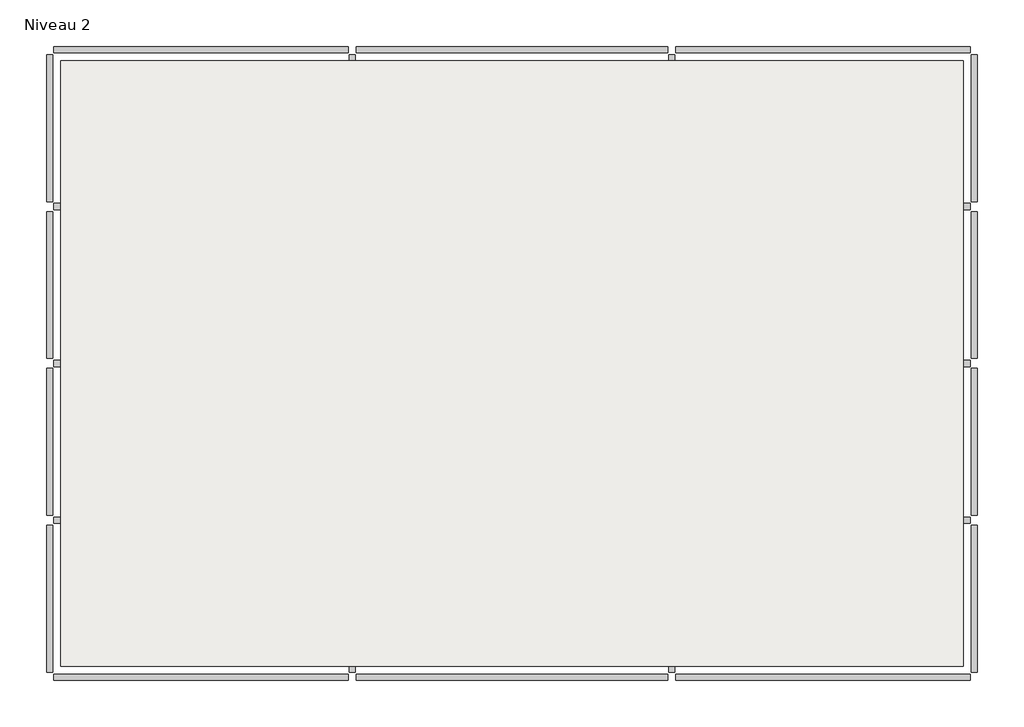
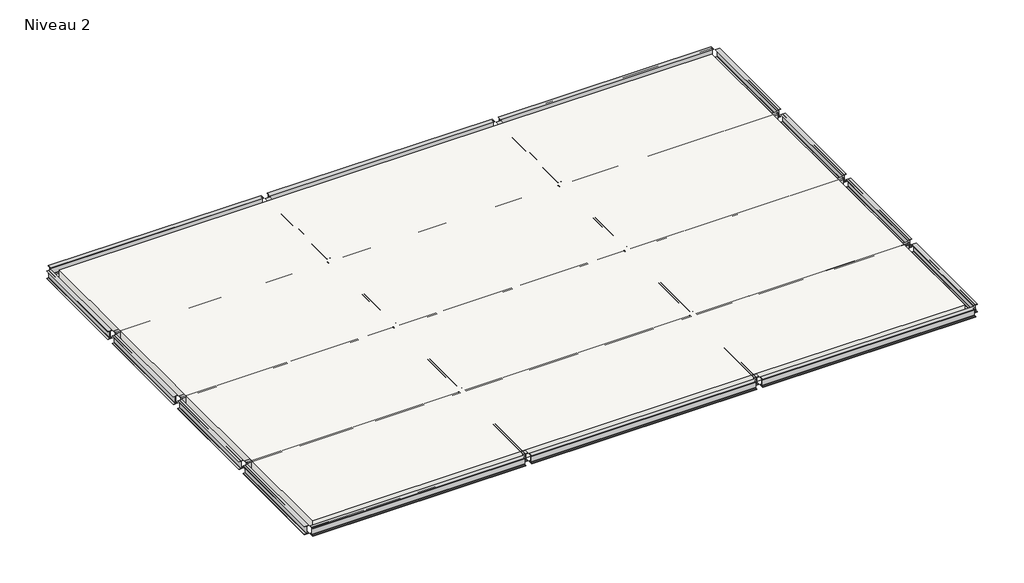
# One storey: 31 beams, 1 slab.
"""IFC4 building model written with IfcOpenShell, lengths in millimetres."""

import ifcopenshell
import ifcopenshell.guid

model = None  # the IFC model being written
_history = None  # IfcOwnerHistory: only IFC2X3 demands one
_inside = {}  # id of a spatial element -> (the spatial element, [elements in it])
_under = {}  # id of a project, library or spatial element -> (it, [spatial elements below it])
_declared = {}  # id of a project -> (the project, [libraries it declares])
_typed = {}  # id of a type object -> (the type object, [elements of that type])
_made_of = {}  # id of a material, layer set ... -> (it, [elements and type objects made of it])


def new_model(schema):
    """Start an empty IFC model of exactly this schema.

    Asked for "IFC4X3", IfcOpenShell would pick the latest addendum, in which some entities
    have other attributes; the version numbers below select the first issue.
    IFC2X3 requires an IfcOwnerHistory on every rooted entity: one is made here for all.
    """
    global model, _history
    if schema == "IFC4X3":
        model = ifcopenshell.file(schema_version=(4, 3, 0, 0))
    else:
        model = ifcopenshell.file(schema=schema)
    _inside.clear()
    _under.clear()
    _declared.clear()
    _typed.clear()
    _made_of.clear()
    _history = None
    if model.schema == "IFC2X3":
        org = make("IfcOrganization", Name="unknown")
        user = make(
            "IfcPersonAndOrganization",
            ThePerson=make("IfcPerson", FamilyName="unknown"),
            TheOrganization=org,
        )
        app = make(
            "IfcApplication",
            ApplicationDeveloper=org,
            Version="unknown",
            ApplicationFullName="unknown",
            ApplicationIdentifier="unknown",
        )
        _history = make(
            "IfcOwnerHistory",
            OwningUser=user,
            OwningApplication=app,
            ChangeAction="ADDED",
            CreationDate=0,
        )
    return model


def make(cls, **values):
    """One entity of the class cls with the attributes given. An attribute that is None is left unset."""
    return model.create_entity(
        cls, **{name: value for name, value in values.items() if value is not None}
    )


def rooted(cls, **values):
    """An entity with a GlobalId (a new one), such as an element, a storey or a relation."""
    return make(cls, GlobalId=ifcopenshell.guid.new(), OwnerHistory=_history, **values)


def si_unit(unit_type, name, prefix=None):
    """IfcSIUnit, for example si_unit("LENGTHUNIT", "METRE", prefix="MILLI")."""
    return make("IfcSIUnit", UnitType=unit_type, Prefix=prefix, Name=name)


def assignment(units):
    """IfcUnitAssignment: the units of a project."""
    return None if units is None else make("IfcUnitAssignment", Units=units)


def point(xyz):
    """IfcCartesianPoint."""
    return None if xyz is None else make("IfcCartesianPoint", Coordinates=xyz)


def direction(xyz):
    """IfcDirection."""
    return None if xyz is None else make("IfcDirection", DirectionRatios=xyz)


def frame(location, z_axis=None, x_axis=None):
    """IfcAxis2Placement3D, a coordinate frame: its origin and axes. An axis left out is left unset."""
    return make(
        "IfcAxis2Placement3D",
        Location=point(location),
        Axis=direction(z_axis),
        RefDirection=direction(x_axis),
    )


def frame_2d(location, x_axis=None):
    """IfcAxis2Placement2D, a coordinate frame in the plane: its origin and x axis."""
    return make(
        "IfcAxis2Placement2D", Location=point(location), RefDirection=direction(x_axis)
    )


def origin():
    """The frame at (0, 0, 0) with its axes left unset."""
    return frame((0.0, 0.0, 0.0))


def place(relative_to, where):
    """IfcLocalPlacement: puts the frame where relative to a parent placement (None: the world)."""
    return make(
        "IfcLocalPlacement", PlacementRelTo=relative_to, RelativePlacement=where
    )


def context(
    kind, dimensions, precision=None, world=None, true_north=None, identifier=None
):
    """IfcGeometricRepresentationContext, for example the 3D "Model" context."""
    return make(
        "IfcGeometricRepresentationContext",
        ContextIdentifier=identifier,
        ContextType=kind,
        CoordinateSpaceDimension=dimensions,
        Precision=precision,
        WorldCoordinateSystem=world,
        TrueNorth=true_north,
    )


def project(units=None, contexts=None):
    """IfcProject with its units and contexts."""
    return rooted(
        "IfcProject",
        Name="project",
        RepresentationContexts=contexts,
        UnitsInContext=assignment(units),
    )


def spatial(cls, under=None, at=None, **own):
    """A site, building, storey or space (cls), placed at a placement, below another one or the project."""
    s = rooted(cls, ObjectPlacement=at, **own)
    if under is not None:
        _under.setdefault(under.id(), (under, []))[1].append(s)
    return s


def polyline(points):
    """IfcPolyline through the points."""
    return make("IfcPolyline", Points=[point(p) for p in points])


def circle_curve(where, radius):
    """IfcCircle in the frame where."""
    return make("IfcCircle", Position=where, Radius=radius)


def trimmed(basis, trim1, trim2, sense, master):
    """IfcTrimmedCurve: the piece of a basis curve between two trims."""
    return make(
        "IfcTrimmedCurve",
        BasisCurve=basis,
        Trim1=trim1,
        Trim2=trim2,
        SenseAgreement=sense,
        MasterRepresentation=master,
    )


def segment(curve, same_sense, transition):
    """IfcCompositeCurveSegment."""
    return make(
        "IfcCompositeCurveSegment",
        Transition=transition,
        SameSense=same_sense,
        ParentCurve=curve,
    )


def composite_curve(segments, self_intersect=None):
    """IfcCompositeCurve: segments joined end to end."""
    return make("IfcCompositeCurve", Segments=segments, SelfIntersect=self_intersect)


def outline(outer, holes=None, kind="AREA"):
    """IfcArbitraryClosedProfileDef: a profile drawn as a closed curve; with holes, ...WithVoids."""
    if holes is None:
        return make("IfcArbitraryClosedProfileDef", ProfileType=kind, OuterCurve=outer)
    return make(
        "IfcArbitraryProfileDefWithVoids",
        ProfileType=kind,
        OuterCurve=outer,
        InnerCurves=holes,
    )


def extrude(swept, where, along, depth):
    """IfcExtrudedAreaSolid: the profile swept, set in the frame where, extruded along a direction by depth."""
    return make(
        "IfcExtrudedAreaSolid",
        SweptArea=swept,
        Position=where,
        ExtrudedDirection=direction(along),
        Depth=depth,
    )


def shape(context_of_items, identifier, shape_type, items):
    """IfcShapeRepresentation: the items that make up one representation, for example the "Body"."""
    return make(
        "IfcShapeRepresentation",
        ContextOfItems=context_of_items,
        RepresentationIdentifier=identifier,
        RepresentationType=shape_type,
        Items=items,
    )


def source(mapping_origin, context_of_items, identifier, shape_type, items):
    """IfcRepresentationMap: a shape defined once, which mapped items show again and again."""
    return make(
        "IfcRepresentationMap",
        MappingOrigin=mapping_origin,
        MappedRepresentation=shape(context_of_items, identifier, shape_type, items),
    )


def transform(
    local_origin,
    x_axis=None,
    y_axis=None,
    z_axis=None,
    scale=None,
    scale2=None,
    scale3=None,
    uniform=True,
):
    """IfcCartesianTransformationOperator3D, or its non-uniform kind. x_axis, y_axis, z_axis: its Axis1, 2, 3."""
    if uniform:
        return make(
            "IfcCartesianTransformationOperator3D",
            Axis1=direction(x_axis),
            Axis2=direction(y_axis),
            LocalOrigin=point(local_origin),
            Scale=scale,
            Axis3=direction(z_axis),
        )
    return make(
        "IfcCartesianTransformationOperator3DnonUniform",
        Axis1=direction(x_axis),
        Axis2=direction(y_axis),
        LocalOrigin=point(local_origin),
        Scale=scale,
        Axis3=direction(z_axis),
        Scale2=scale2,
        Scale3=scale3,
    )


def mapped(mapping_source, mapping_target):
    """IfcMappedItem: shows the shape of a source again, moved by a transform."""
    return make(
        "IfcMappedItem", MappingSource=mapping_source, MappingTarget=mapping_target
    )


def made_of(thing, what):
    """Note that an element or type object is made of a material, layer set ...; save() writes the relation."""
    if what is not None:
        _made_of.setdefault(what.id(), (what, []))[1].append(thing)
    return thing


def element(
    cls,
    number,
    at=None,
    inside=None,
    cuts=None,
    type_object=None,
    material=None,
    context=None,
    identifier="Body",
    shape_type=None,
    held_by="IfcProductDefinitionShape",
    body=None,
    shapes=None,
    **own,
):
    """One element of the class cls, such as IfcWall. Its Tag is "e" and its number.

    at: its placement. inside: the storey or other place that contains it. cuts: it is an
    opening in that element (IfcRelVoidsElement). A single representation is given by context,
    identifier, shape_type and body (its items); several are given by shapes. held_by: the class
    of the entity that holds the representations. save() writes the other relations.
    """
    e = rooted(cls, Tag="e%d" % number, ObjectPlacement=at, **own)
    if body is not None:
        shapes = [shape(context, identifier, shape_type, body)]
    if shapes is not None:
        e.Representation = make(held_by, Representations=shapes)
    if inside is not None:
        _inside.setdefault(inside.id(), (inside, []))[1].append(e)
    if cuts is not None:
        rooted(
            "IfcRelVoidsElement", RelatingBuildingElement=cuts, RelatedOpeningElement=e
        )
    if type_object is not None:
        _typed.setdefault(type_object.id(), (type_object, []))[1].append(e)
    return made_of(e, material)


def aggregate(whole, parts):
    """IfcRelAggregates: a whole, such as a stair, and the parts it consists of."""
    return rooted("IfcRelAggregates", RelatingObject=whole, RelatedObjects=parts)


def save(model, path):
    """Write the relations noted so far, then the file.

    IfcRelAggregates (storeys below a building ...), IfcRelContainedInSpatialStructure (elements
    in a storey), IfcRelDefinesByType, IfcRelAssociatesMaterial and IfcRelDeclares: one each for
    every whole, place, type object, material and project.
    """
    for whole, parts in _under.values():
        aggregate(whole, parts)
    for where, things in _inside.values():
        rooted(
            "IfcRelContainedInSpatialStructure",
            RelatedElements=things,
            RelatingStructure=where,
        )
    for kind, things in _typed.values():
        rooted("IfcRelDefinesByType", RelatedObjects=things, RelatingType=kind)
    for what, things in _made_of.values():
        rooted("IfcRelAssociatesMaterial", RelatedObjects=things, RelatingMaterial=what)
    for by, libraries in _declared.values():
        rooted("IfcRelDeclares", RelatingContext=by, RelatedDefinitions=libraries)
    model.write(path)


def w_wide_flange_w12x26_fd16299b(model_context):
    return source(origin(), model_context, "Body", "SweptSolid", [
        extrude(outline(composite_curve([segment(polyline([(82.55, -146.05), (82.55, -155.575), (-82.55, -155.575), (-82.55, -146.05), (-15.875, -146.05)]), True, "CONTINUOUS"), segment(trimmed(circle_curve(frame_2d((-15.875, -133.35)), 12.7), [point((-15.875, -146.05))], [point((-3.175, -133.35))], True, "CARTESIAN"), True, "CONTINUOUS"), segment(polyline([(-3.175, -133.35), (-3.175, 133.35)]), True, "CONTINUOUS"), segment(trimmed(circle_curve(frame_2d((-15.875, 133.35)), 12.7), [point((-3.175, 133.35))], [point((-15.875, 146.05))], True, "CARTESIAN"), True, "CONTINUOUS"), segment(polyline([(-15.875, 146.05), (-82.55, 146.05), (-82.55, 155.575), (82.55, 155.575), (82.55, 146.05), (15.875, 146.05)]), True, "CONTINUOUS"), segment(trimmed(circle_curve(frame_2d((15.875, 133.35)), 12.7), [point((15.875, 146.05))], [point((3.175, 133.35))], True, "CARTESIAN"), True, "CONTINUOUS"), segment(polyline([(3.175, 133.35), (3.175, -133.35)]), True, "CONTINUOUS"), segment(trimmed(circle_curve(frame_2d((15.875, -133.35)), 12.7), [point((3.175, -133.35))], [point((15.875, -146.05))], True, "CARTESIAN"), True, "CONTINUOUS"), segment(polyline([(15.875, -146.05), (82.55, -146.05)]), True, "CONTINUOUS")], self_intersect=False)), frame((-4000.5, 0.0, 0.0), z_axis=(1.0, 0.0, 0.0), x_axis=(0.0, 1.0, 0.0)), (0.0, 0.0, 1.0), 8001.0),
    ])


def w_wide_flange_w12x26_ebb6aad1(model_context):
    return source(origin(), model_context, "Body", "SweptSolid", [
        extrude(outline(composite_curve([segment(polyline([(82.55, -146.05), (82.55, -155.575), (-82.55, -155.575), (-82.55, -146.05), (-15.875, -146.05)]), True, "CONTINUOUS"), segment(trimmed(circle_curve(frame_2d((-15.875, -133.35)), 12.7), [point((-15.875, -146.05))], [point((-3.175, -133.35))], True, "CARTESIAN"), True, "CONTINUOUS"), segment(polyline([(-3.175, -133.35), (-3.175, 133.35)]), True, "CONTINUOUS"), segment(trimmed(circle_curve(frame_2d((-15.875, 133.35)), 12.7), [point((-3.175, 133.35))], [point((-15.875, 146.05))], True, "CARTESIAN"), True, "CONTINUOUS"), segment(polyline([(-15.875, 146.05), (-82.55, 146.05), (-82.55, 155.575), (82.55, 155.575), (82.55, 146.05), (15.875, 146.05)]), True, "CONTINUOUS"), segment(trimmed(circle_curve(frame_2d((15.875, 133.35)), 12.7), [point((15.875, 146.05))], [point((3.175, 133.35))], True, "CARTESIAN"), True, "CONTINUOUS"), segment(polyline([(3.175, 133.35), (3.175, -133.35)]), True, "CONTINUOUS"), segment(trimmed(circle_curve(frame_2d((15.875, -133.35)), 12.7), [point((3.175, -133.35))], [point((15.875, -146.05))], True, "CARTESIAN"), True, "CONTINUOUS"), segment(polyline([(15.875, -146.05), (82.55, -146.05)]), True, "CONTINUOUS")], self_intersect=False)), frame((-4229.1, 0.0, 0.0), z_axis=(1.0, 0.0, 0.0), x_axis=(0.0, 1.0, 0.0)), (0.0, 0.0, 1.0), 8458.2),
    ])


def w_wide_flange_w12x26_57604207(model_context):
    return source(origin(), model_context, "Body", "SweptSolid", [
        extrude(outline(composite_curve([segment(polyline([(82.55, -146.05), (82.55, -155.575), (-82.55, -155.575), (-82.55, -146.05), (-15.875, -146.05)]), True, "CONTINUOUS"), segment(trimmed(circle_curve(frame_2d((-15.875, -133.35)), 12.7), [point((-15.875, -146.05))], [point((-3.175, -133.35))], True, "CARTESIAN"), True, "CONTINUOUS"), segment(polyline([(-3.175, -133.35), (-3.175, 133.35)]), True, "CONTINUOUS"), segment(trimmed(circle_curve(frame_2d((-15.875, 133.35)), 12.7), [point((-3.175, 133.35))], [point((-15.875, 146.05))], True, "CARTESIAN"), True, "CONTINUOUS"), segment(polyline([(-15.875, 146.05), (-82.55, 146.05), (-82.55, 155.575), (82.55, 155.575), (82.55, 146.05), (15.875, 146.05)]), True, "CONTINUOUS"), segment(trimmed(circle_curve(frame_2d((15.875, 133.35)), 12.7), [point((15.875, 146.05))], [point((3.175, 133.35))], True, "CARTESIAN"), True, "CONTINUOUS"), segment(polyline([(3.175, 133.35), (3.175, -133.35)]), True, "CONTINUOUS"), segment(trimmed(circle_curve(frame_2d((15.875, -133.35)), 12.7), [point((3.175, -133.35))], [point((15.875, -146.05))], True, "CARTESIAN"), True, "CONTINUOUS"), segment(polyline([(15.875, -146.05), (82.55, -146.05)]), True, "CONTINUOUS")], self_intersect=False)), frame((-1997.075, 0.0, 0.0), z_axis=(1.0, 0.0, 0.0), x_axis=(0.0, 1.0, 0.0)), (0.0, 0.0, 1.0), 3994.15),
    ])


model = new_model("IFC4")

# Units and contexts
model_context = context("Model", 3, world=origin())
ifc_project = project(units=[si_unit("LENGTHUNIT", "METRE", prefix="MILLI")], contexts=[model_context])

# Site, building, storey
site = spatial("IfcSite", under=ifc_project)
building = spatial("IfcBuilding", under=site)
storey = spatial("IfcBuildingStorey", under=building, Name="Niveau 2", Elevation=3048.0)

# Beams
placement = place(None, origin())
w_wide_flange_w12x26_shape = w_wide_flange_w12x26_fd16299b(model_context)
element("IfcBeam", 1, ObjectType="W-Wide Flange : W12X26", at=placement, inside=storey, context=model_context, shape_type="MappedRepresentation", body=[
    mapped(w_wide_flange_w12x26_shape, transform((3119.9519861, 12392.6762973, 2892.425), x_axis=(-1.0, 0.0, 0.0), y_axis=(0.0, -1.0, 0.0), z_axis=(0.0, 0.0, 1.0))),
])
element("IfcBeam", 2, ObjectType="W-Wide Flange : W12X26", at=placement, inside=storey, context=model_context, shape_type="MappedRepresentation", body=[
    mapped(w_wide_flange_w12x26_shape, transform((-13796.4480139, 12392.6762973, 2892.425), x_axis=(-1.0, 0.0, 0.0), y_axis=(0.0, -1.0, 0.0), z_axis=(0.0, 0.0, 1.0))),
])
element("IfcBeam", 3, ObjectType="W-Wide Flange : W12X26", at=placement, inside=storey, context=model_context, shape_type="MappedRepresentation", body=[
    mapped(w_wide_flange_w12x26_shape, transform((3119.9519861, 8125.4762973, 2892.425), x_axis=(-1.0, 0.0, 0.0), y_axis=(0.0, -1.0, 0.0), z_axis=(0.0, 0.0, 1.0))),
])
element("IfcBeam", 4, ObjectType="W-Wide Flange : W12X26", at=placement, inside=storey, context=model_context, shape_type="MappedRepresentation", body=[
    mapped(w_wide_flange_w12x26_shape, transform((-13796.4480139, 8125.4762973, 2892.425), x_axis=(-1.0, 0.0, 0.0), y_axis=(0.0, -1.0, 0.0), z_axis=(0.0, 0.0, 1.0))),
])
element("IfcBeam", 5, ObjectType="W-Wide Flange : W12X26", at=placement, inside=storey, context=model_context, shape_type="MappedRepresentation", body=[
    mapped(w_wide_flange_w12x26_shape, transform((3119.9519861, 3858.2762973, 2892.425), x_axis=(-1.0, 0.0, 0.0), y_axis=(0.0, -1.0, 0.0), z_axis=(0.0, 0.0, 1.0))),
])
element("IfcBeam", 6, ObjectType="W-Wide Flange : W12X26", at=placement, inside=storey, context=model_context, shape_type="MappedRepresentation", body=[
    mapped(w_wide_flange_w12x26_shape, transform((-13796.4480139, 3858.2762973, 2892.425), x_axis=(-1.0, 0.0, 0.0), y_axis=(0.0, -1.0, 0.0), z_axis=(0.0, 0.0, 1.0))),
])
element("IfcBeam", 7, ObjectType="W-Wide Flange : W12X26", at=placement, inside=storey, context=model_context, shape_type="MappedRepresentation", body=[
    mapped(w_wide_flange_w12x26_shape, transform((3119.9519861, -408.9237027, 2892.425), x_axis=(-1.0, 0.0, 0.0), y_axis=(0.0, -1.0, 0.0), z_axis=(0.0, 0.0, 1.0))),
])
element("IfcBeam", 8, ObjectType="W-Wide Flange : W12X26", at=placement, inside=storey, context=model_context, shape_type="MappedRepresentation", body=[
    mapped(w_wide_flange_w12x26_shape, transform((-13796.4480139, -408.9237027, 2892.425), x_axis=(-1.0, 0.0, 0.0), y_axis=(0.0, -1.0, 0.0), z_axis=(0.0, 0.0, 1.0))),
])
element("IfcBeam", 9, ObjectType="W-Wide Flange : W12X26", at=placement, inside=storey, context=model_context, shape_type="MappedRepresentation", body=[
    mapped(w_wide_flange_w12x26_shape, transform((3119.9519861, -4676.1237027, 2892.425), x_axis=(-1.0, 0.0, 0.0), y_axis=(0.0, -1.0, 0.0), z_axis=(0.0, 0.0, 1.0))),
])
element("IfcBeam", 10, ObjectType="W-Wide Flange : W12X26", at=placement, inside=storey, context=model_context, shape_type="MappedRepresentation", body=[
    mapped(w_wide_flange_w12x26_shape, transform((-13796.4480139, -4676.1237027, 2892.425), x_axis=(-1.0, 0.0, 0.0), y_axis=(0.0, -1.0, 0.0), z_axis=(0.0, 0.0, 1.0))),
])
w_wide_flange_w12x26_2_shape = w_wide_flange_w12x26_ebb6aad1(model_context)
element("IfcBeam", 11, ObjectType="W-Wide Flange : W12X26", at=placement, inside=storey, context=model_context, shape_type="MappedRepresentation", body=[
    mapped(w_wide_flange_w12x26_2_shape, transform((-5338.2480139, 12392.6762973, 2892.425), x_axis=(-1.0, 0.0, 0.0), y_axis=(0.0, -1.0, 0.0), z_axis=(0.0, 0.0, 1.0))),
])
element("IfcBeam", 12, ObjectType="W-Wide Flange : W12X26", at=placement, inside=storey, context=model_context, shape_type="MappedRepresentation", body=[
    mapped(w_wide_flange_w12x26_2_shape, transform((-5338.2480139, 8125.4762973, 2892.425), x_axis=(-1.0, 0.0, 0.0), y_axis=(0.0, -1.0, 0.0), z_axis=(0.0, 0.0, 1.0))),
])
element("IfcBeam", 13, ObjectType="W-Wide Flange : W12X26", at=placement, inside=storey, context=model_context, shape_type="MappedRepresentation", body=[
    mapped(w_wide_flange_w12x26_2_shape, transform((-5338.2480139, 3858.2762973, 2892.425), x_axis=(-1.0, 0.0, 0.0), y_axis=(0.0, -1.0, 0.0), z_axis=(0.0, 0.0, 1.0))),
])
element("IfcBeam", 14, ObjectType="W-Wide Flange : W12X26", at=placement, inside=storey, context=model_context, shape_type="MappedRepresentation", body=[
    mapped(w_wide_flange_w12x26_2_shape, transform((-5338.2480139, -408.9237027, 2892.425), x_axis=(-1.0, 0.0, 0.0), y_axis=(0.0, -1.0, 0.0), z_axis=(0.0, 0.0, 1.0))),
])
element("IfcBeam", 15, ObjectType="W-Wide Flange : W12X26", at=placement, inside=storey, context=model_context, shape_type="MappedRepresentation", body=[
    mapped(w_wide_flange_w12x26_2_shape, transform((-5338.2480139, -4676.1237027, 2892.425), x_axis=(-1.0, 0.0, 0.0), y_axis=(0.0, -1.0, 0.0), z_axis=(0.0, 0.0, 1.0))),
])
w_wide_flange_w12x26_3_shape = w_wide_flange_w12x26_57604207(model_context)
element("IfcBeam", 16, ObjectType="W-Wide Flange : W12X26", at=placement, inside=storey, context=model_context, shape_type="MappedRepresentation", body=[
    mapped(w_wide_flange_w12x26_3_shape, transform((-17911.2480139, -2542.5237027, 2892.425), x_axis=(0.0, 1.0, 0.0), y_axis=(-1.0, 0.0, 0.0), z_axis=(0.0, 0.0, 1.0))),
])
element("IfcBeam", 17, ObjectType="W-Wide Flange : W12X26", at=placement, inside=storey, context=model_context, shape_type="MappedRepresentation", body=[
    mapped(w_wide_flange_w12x26_3_shape, transform((-17911.2480139, 1724.6762973, 2892.425), x_axis=(0.0, 1.0, 0.0), y_axis=(-1.0, 0.0, 0.0), z_axis=(0.0, 0.0, 1.0))),
])
element("IfcBeam", 18, ObjectType="W-Wide Flange : W12X26", at=placement, inside=storey, context=model_context, shape_type="MappedRepresentation", body=[
    mapped(w_wide_flange_w12x26_3_shape, transform((-17911.2480139, 5991.8762973, 2892.425), x_axis=(0.0, 1.0, 0.0), y_axis=(-1.0, 0.0, 0.0), z_axis=(0.0, 0.0, 1.0))),
])
element("IfcBeam", 19, ObjectType="W-Wide Flange : W12X26", at=placement, inside=storey, context=model_context, shape_type="MappedRepresentation", body=[
    mapped(w_wide_flange_w12x26_3_shape, transform((-17911.2480139, 10259.0762973, 2892.425), x_axis=(0.0, 1.0, 0.0), y_axis=(-1.0, 0.0, 0.0), z_axis=(0.0, 0.0, 1.0))),
])
element("IfcBeam", 20, ObjectType="W-Wide Flange : W12X26", at=placement, inside=storey, context=model_context, shape_type="MappedRepresentation", body=[
    mapped(w_wide_flange_w12x26_3_shape, transform((-9681.6480139, -2542.5237027, 2892.425), x_axis=(0.0, 1.0, 0.0), y_axis=(-1.0, 0.0, 0.0), z_axis=(0.0, 0.0, 1.0))),
])
element("IfcBeam", 21, ObjectType="W-Wide Flange : W12X26", at=placement, inside=storey, context=model_context, shape_type="MappedRepresentation", body=[
    mapped(w_wide_flange_w12x26_3_shape, transform((-9681.6480139, 1724.6762973, 2892.425), x_axis=(0.0, 1.0, 0.0), y_axis=(-1.0, 0.0, 0.0), z_axis=(0.0, 0.0, 1.0))),
])
element("IfcBeam", 22, ObjectType="W-Wide Flange : W12X26", at=placement, inside=storey, context=model_context, shape_type="MappedRepresentation", body=[
    mapped(w_wide_flange_w12x26_3_shape, transform((-9681.6480139, 5991.8762973, 2892.425), x_axis=(0.0, 1.0, 0.0), y_axis=(-1.0, 0.0, 0.0), z_axis=(0.0, 0.0, 1.0))),
])
element("IfcBeam", 23, ObjectType="W-Wide Flange : W12X26", at=placement, inside=storey, context=model_context, shape_type="MappedRepresentation", body=[
    mapped(w_wide_flange_w12x26_3_shape, transform((-9681.6480139, 10259.0762973, 2892.425), x_axis=(0.0, 1.0, 0.0), y_axis=(-1.0, 0.0, 0.0), z_axis=(0.0, 0.0, 1.0))),
])
element("IfcBeam", 24, ObjectType="W-Wide Flange : W12X26", at=placement, inside=storey, context=model_context, shape_type="MappedRepresentation", body=[
    mapped(w_wide_flange_w12x26_3_shape, transform((-994.8480139, -2542.5237027, 2892.425), x_axis=(0.0, 1.0, 0.0), y_axis=(-1.0, 0.0, 0.0), z_axis=(0.0, 0.0, 1.0))),
])
element("IfcBeam", 25, ObjectType="W-Wide Flange : W12X26", at=placement, inside=storey, context=model_context, shape_type="MappedRepresentation", body=[
    mapped(w_wide_flange_w12x26_3_shape, transform((-994.8480139, 1724.6762973, 2892.425), x_axis=(0.0, 1.0, 0.0), y_axis=(-1.0, 0.0, 0.0), z_axis=(0.0, 0.0, 1.0))),
])
element("IfcBeam", 26, ObjectType="W-Wide Flange : W12X26", at=placement, inside=storey, context=model_context, shape_type="MappedRepresentation", body=[
    mapped(w_wide_flange_w12x26_3_shape, transform((-994.8480139, 5991.8762973, 2892.425), x_axis=(0.0, 1.0, 0.0), y_axis=(-1.0, 0.0, 0.0), z_axis=(0.0, 0.0, 1.0))),
])
element("IfcBeam", 27, ObjectType="W-Wide Flange : W12X26", at=placement, inside=storey, context=model_context, shape_type="MappedRepresentation", body=[
    mapped(w_wide_flange_w12x26_3_shape, transform((-994.8480139, 10259.0762973, 2892.425), x_axis=(0.0, 1.0, 0.0), y_axis=(-1.0, 0.0, 0.0), z_axis=(0.0, 0.0, 1.0))),
])
element("IfcBeam", 28, ObjectType="W-Wide Flange : W12X26", at=placement, inside=storey, context=model_context, shape_type="MappedRepresentation", body=[
    mapped(w_wide_flange_w12x26_3_shape, transform((7234.7519861, -2542.5237027, 2892.425), x_axis=(0.0, 1.0, 0.0), y_axis=(-1.0, 0.0, 0.0), z_axis=(0.0, 0.0, 1.0))),
])
element("IfcBeam", 29, ObjectType="W-Wide Flange : W12X26", at=placement, inside=storey, context=model_context, shape_type="MappedRepresentation", body=[
    mapped(w_wide_flange_w12x26_3_shape, transform((7234.7519861, 1724.6762973, 2892.425), x_axis=(0.0, 1.0, 0.0), y_axis=(-1.0, 0.0, 0.0), z_axis=(0.0, 0.0, 1.0))),
])
element("IfcBeam", 30, ObjectType="W-Wide Flange : W12X26", at=placement, inside=storey, context=model_context, shape_type="MappedRepresentation", body=[
    mapped(w_wide_flange_w12x26_3_shape, transform((7234.7519861, 5991.8762973, 2892.425), x_axis=(0.0, 1.0, 0.0), y_axis=(-1.0, 0.0, 0.0), z_axis=(0.0, 0.0, 1.0))),
])
element("IfcBeam", 31, ObjectType="W-Wide Flange : W12X26", at=placement, inside=storey, context=model_context, shape_type="MappedRepresentation", body=[
    mapped(w_wide_flange_w12x26_3_shape, transform((7234.7519861, 10259.0762973, 2892.425), x_axis=(0.0, 1.0, 0.0), y_axis=(-1.0, 0.0, 0.0), z_axis=(0.0, 0.0, 1.0))),
])

# Slab
element("IfcSlab", 32, ObjectType="Generic - 12\"", at=placement, inside=storey, context=model_context, shape_type="SweptSolid", body=[
    extrude(outline(polyline([(-17606.4480139, 12087.8762973), (-9681.6480139, 12087.8762973), (-994.8480139, 12087.8762973), (6929.9519861, 12087.8762973), (6929.9519861, 8125.4762973), (6929.9519861, 3858.2762973), (6929.9519861, -408.9237027), (6929.9519861, -4371.3237027), (-994.8480139, -4371.3237027), (-9681.6480139, -4371.3237027), (-17606.4480139, -4371.3237027), (-17606.4480139, -408.9237027), (-17606.4480139, 3858.2762973), (-17606.4480139, 8125.4762973), (-17606.4480139, 12087.8762973)])), frame((0.0, 0.0, 2743.2), z_axis=(0.0, 0.0, 1.0), x_axis=(1.0, 0.0, 0.0)), (0.0, 0.0, 1.0), 304.8),
])

save(model, "model.ifc")
